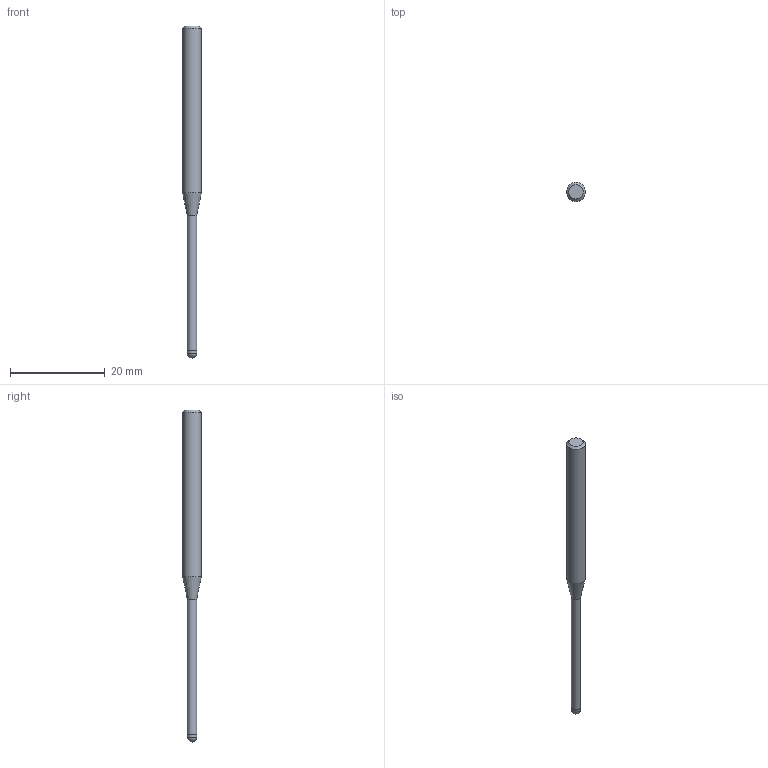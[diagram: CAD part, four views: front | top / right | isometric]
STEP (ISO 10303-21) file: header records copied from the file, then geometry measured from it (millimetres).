
FILE_DESCRIPTION((''),'2;1');
FILE_NAME('C:\Users\nsx150\AppData\Local\Temp\Mastercam 2021\ARV7HD45SN\TEMP.step','2023-06-13T16:37:54',(''),(''),'STEP Write','Mastercam 2021 ... CNC Software, Inc.','');
FILE_SCHEMA(('AUTOMOTIVE_DESIGN'));
Length unit declared in the file: millimetre
Products named in the file (1): None
Bounding box: 4 x 4 x 70 mm (x, y, z)
Volume: 563.1 mm3; surface area: 685.8 mm2
Topology: 2 solids, 2 shells, 9 faces, 14 edges, 8 vertices
Faces by surface type: plane 3, cylinder 3, cone 2, sphere 1
Full cylindrical faces by diameter (mm): 1.94 x1, 2 x1, 4 x1
Entity records: 211 total; most frequent: DIRECTION 36, CARTESIAN_POINT 25, AXIS2_PLACEMENT_3D 18, ORIENTED_EDGE 14, EDGE_LOOP 14, STYLED_ITEM 12, ADVANCED_FACE 9, FACE_BOUND 8
